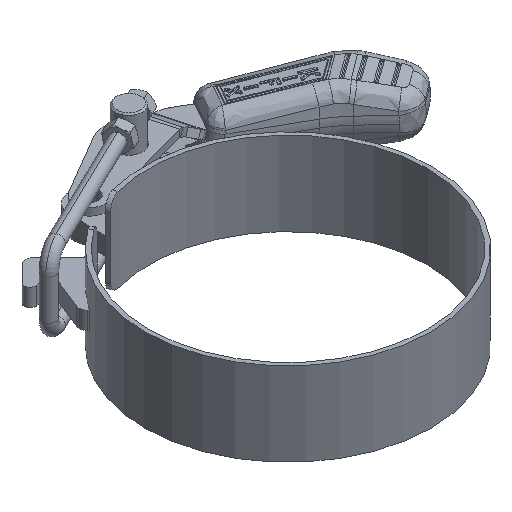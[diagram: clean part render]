
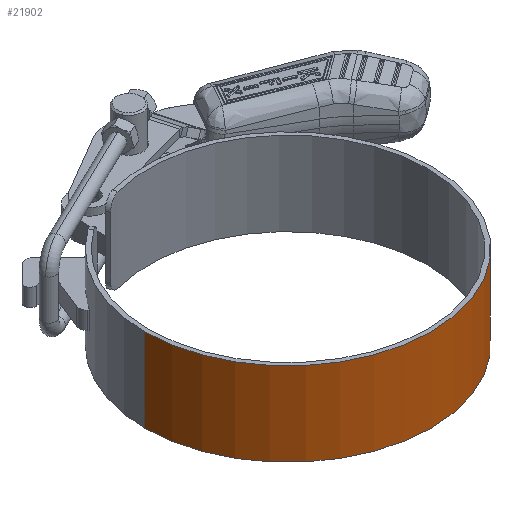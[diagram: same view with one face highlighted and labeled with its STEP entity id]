
A CAD part, isometric view. The second image highlights one B-rep face of the part: STEP entity #21902.
In plain terms, the highlighted cylindrical face has radius 51.5 mm (diameter 103 mm), a partial arc.
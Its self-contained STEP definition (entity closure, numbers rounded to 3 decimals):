
#1506 = CIRCLE ( 'NONE', #26966, 51.5 ) ;
#1924 = ORIENTED_EDGE ( 'NONE', *, *, #27068, .T. ) ;
#2781 = CARTESIAN_POINT ( 'NONE',  ( -51.5, 0., 15. ) ) ;
#3458 = EDGE_CURVE ( 'NONE', #21131, #9124, #22508, .T. ) ;
#4448 = AXIS2_PLACEMENT_3D ( 'NONE', #31538, #21294, #16111 ) ;
#7330 = VECTOR ( 'NONE', #30819, 1000. ) ;
#7839 = ORIENTED_EDGE ( 'NONE', *, *, #3458, .T. ) ;
#8475 = ORIENTED_EDGE ( 'NONE', *, *, #10570, .F. ) ;
#9124 = VERTEX_POINT ( 'NONE', #22052 ) ;
#9780 = EDGE_LOOP ( 'NONE', ( #16877, #8475, #1924, #7839 ) ) ;
#10507 = LINE ( 'NONE', #20686, #23423 ) ;
#10570 = EDGE_CURVE ( 'NONE', #22200, #13081, #1506, .T. ) ;
#13081 = VERTEX_POINT ( 'NONE', #30353 ) ;
#14051 = FACE_OUTER_BOUND ( 'NONE', #9780, .T. ) ;
#14855 = CYLINDRICAL_SURFACE ( 'NONE', #25575, 51.5 ) ;
#16111 = DIRECTION ( 'NONE',  ( 1., 0., 0. ) ) ;
#16594 = CARTESIAN_POINT ( 'NONE',  ( 0., 0., 15. ) ) ;
#16877 = ORIENTED_EDGE ( 'NONE', *, *, #19528, .F. ) ;
#19528 = EDGE_CURVE ( 'NONE', #13081, #9124, #10507, .T. ) ;
#20686 = CARTESIAN_POINT ( 'NONE',  ( 51.5, 0., 15. ) ) ;
#21131 = VERTEX_POINT ( 'NONE', #25559 ) ;
#21294 = DIRECTION ( 'NONE',  ( 0., 0., 1. ) ) ;
#21902 = ADVANCED_FACE ( 'NONE', ( #14051 ), #14855, .T. ) ;
#22052 = CARTESIAN_POINT ( 'NONE',  ( 51.5, 0., -15. ) ) ;
#22200 = VERTEX_POINT ( 'NONE', #26830 ) ;
#22492 = DIRECTION ( 'NONE',  ( 0., 0., -1. ) ) ;
#22508 = CIRCLE ( 'NONE', #4448, 51.5 ) ;
#23423 = VECTOR ( 'NONE', #22492, 1000. ) ;
#25559 = CARTESIAN_POINT ( 'NONE',  ( -51.5, 0., -15. ) ) ;
#25575 = AXIS2_PLACEMENT_3D ( 'NONE', #32477, #27504, #30150 ) ;
#26027 = LINE ( 'NONE', #2781, #7330 ) ;
#26738 = DIRECTION ( 'NONE',  ( 1., 0., 0. ) ) ;
#26830 = CARTESIAN_POINT ( 'NONE',  ( -51.5, 0., 15. ) ) ;
#26966 = AXIS2_PLACEMENT_3D ( 'NONE', #16594, #32007, #26738 ) ;
#27068 = EDGE_CURVE ( 'NONE', #22200, #21131, #26027, .T. ) ;
#27504 = DIRECTION ( 'NONE',  ( 0., 0., -1. ) ) ;
#30150 = DIRECTION ( 'NONE',  ( -1., 0., 0. ) ) ;
#30353 = CARTESIAN_POINT ( 'NONE',  ( 51.5, 0., 15. ) ) ;
#30819 = DIRECTION ( 'NONE',  ( 0., 0., -1. ) ) ;
#31538 = CARTESIAN_POINT ( 'NONE',  ( 0., 0., -15. ) ) ;
#32007 = DIRECTION ( 'NONE',  ( 0., 0., 1. ) ) ;
#32477 = CARTESIAN_POINT ( 'NONE',  ( 0., 0., 15. ) ) ;
